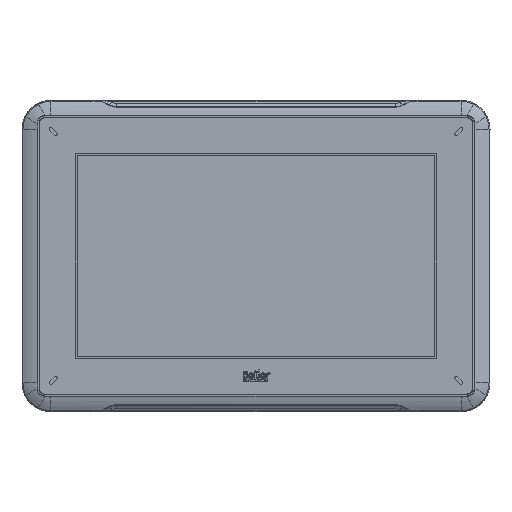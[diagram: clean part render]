
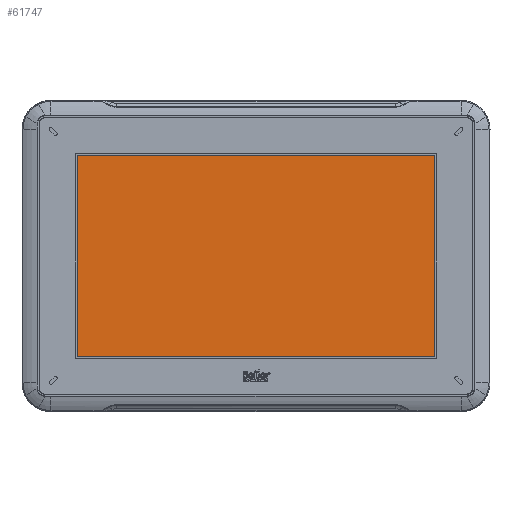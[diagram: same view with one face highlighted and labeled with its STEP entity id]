
A CAD part, top view. The second image highlights one B-rep face of the part: STEP entity #61747.
In plain terms, the highlighted planar face has unit normal (0, 0, 1).
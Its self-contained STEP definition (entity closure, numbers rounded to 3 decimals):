
#6088 = PLANE ( 'NONE',  #104897 ) ;
#7260 = VECTOR ( 'NONE', #173386, 1000. ) ;
#9862 = CARTESIAN_POINT ( 'NONE',  ( 111.56, -62.84, -0.485 ) ) ;
#9888 = VERTEX_POINT ( 'NONE', #37061 ) ;
#10081 = DIRECTION ( 'NONE',  ( 0., 0., 1. ) ) ;
#11412 = LINE ( 'NONE', #52623, #7260 ) ;
#21952 = EDGE_CURVE ( 'NONE', #71107, #9888, #65109, .T. ) ;
#23319 = VERTEX_POINT ( 'NONE', #9862 ) ;
#27889 = FACE_OUTER_BOUND ( 'NONE', #153883, .T. ) ;
#37061 = CARTESIAN_POINT ( 'NONE',  ( -111.56, -62.84, -0.485 ) ) ;
#41043 = LINE ( 'NONE', #124608, #143784 ) ;
#46637 = DIRECTION ( 'NONE',  ( 0., 1., 0. ) ) ;
#47435 = EDGE_CURVE ( 'NONE', #9888, #23319, #11412, .T. ) ;
#50055 = VERTEX_POINT ( 'NONE', #89173 ) ;
#51652 = ORIENTED_EDGE ( 'NONE', *, *, #103736, .T. ) ;
#52623 = CARTESIAN_POINT ( 'NONE',  ( 0., -62.84, -0.485 ) ) ;
#55017 = ORIENTED_EDGE ( 'NONE', *, *, #66188, .T. ) ;
#57572 = CARTESIAN_POINT ( 'NONE',  ( -111.56, 0., -0.485 ) ) ;
#61623 = ORIENTED_EDGE ( 'NONE', *, *, #21952, .T. ) ;
#61747 = ADVANCED_FACE ( 'NONE', ( #27889 ), #6088, .T. ) ;
#65109 = LINE ( 'NONE', #57572, #66482 ) ;
#66188 = EDGE_CURVE ( 'NONE', #23319, #50055, #165548, .T. ) ;
#66482 = VECTOR ( 'NONE', #138520, 1000. ) ;
#71107 = VERTEX_POINT ( 'NONE', #102509 ) ;
#89173 = CARTESIAN_POINT ( 'NONE',  ( 111.56, 62.84, -0.485 ) ) ;
#90194 = CARTESIAN_POINT ( 'NONE',  ( -111.56, -62.84, -0.485 ) ) ;
#102509 = CARTESIAN_POINT ( 'NONE',  ( -111.56, 62.84, -0.485 ) ) ;
#103683 = DIRECTION ( 'NONE',  ( 1., 0., 0. ) ) ;
#103736 = EDGE_CURVE ( 'NONE', #50055, #71107, #41043, .T. ) ;
#104897 = AXIS2_PLACEMENT_3D ( 'NONE', #90194, #10081, #103683 ) ;
#124608 = CARTESIAN_POINT ( 'NONE',  ( 0., 62.84, -0.485 ) ) ;
#131750 = VECTOR ( 'NONE', #46637, 1000. ) ;
#138520 = DIRECTION ( 'NONE',  ( 0., -1., 0. ) ) ;
#138739 = DIRECTION ( 'NONE',  ( -1., 0., 0. ) ) ;
#140395 = CARTESIAN_POINT ( 'NONE',  ( 111.56, 0., -0.485 ) ) ;
#143784 = VECTOR ( 'NONE', #138739, 1000. ) ;
#153883 = EDGE_LOOP ( 'NONE', ( #161092, #55017, #51652, #61623 ) ) ;
#161092 = ORIENTED_EDGE ( 'NONE', *, *, #47435, .T. ) ;
#165548 = LINE ( 'NONE', #140395, #131750 ) ;
#173386 = DIRECTION ( 'NONE',  ( 1., 0., 0. ) ) ;
